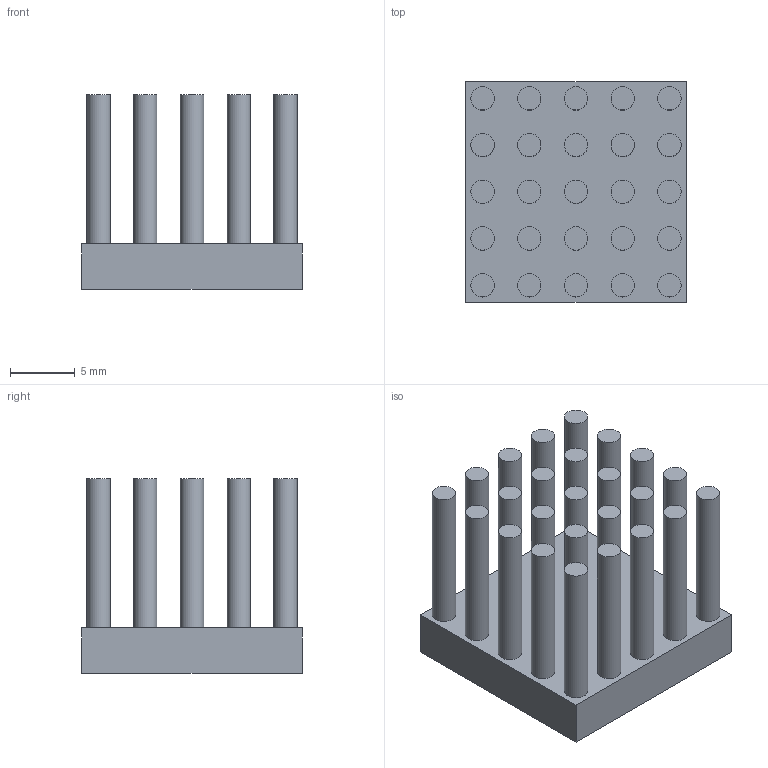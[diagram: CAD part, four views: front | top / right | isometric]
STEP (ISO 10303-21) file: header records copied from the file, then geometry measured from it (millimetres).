
FILE_DESCRIPTION(/* description */ (''),/* implementation_level */ '2;1');
FILE_NAME(/* name */ 'PB1717-25.stp',/* time_stamp */ '2013-08-21T08:56:11+08:00',/* author */ (''),/* organization */ (''),/* preprocessor_version */ 'ST-DEVELOPER v14',/* originating_system */ 'SIEMENS PLM Software NX 8.0',/* authorisation */ '');
FILE_SCHEMA (('CONFIG_CONTROL_DESIGN'));
Length unit declared in the file: millimetre
Products named in the file (1): PB1717-25
Bounding box: 17 x 17 x 15 mm (x, y, z)
Volume: 1743.1 mm3; surface area: 2441.8 mm2
Topology: 1 solids, 1 shells, 56 faces, 87 edges, 58 vertices
Faces by surface type: plane 31, cylinder 25
Full cylindrical faces by diameter (mm): 1.8 x25
Entity records: 1240 total; most frequent: DIRECTION 226, CARTESIAN_POINT 177, ORIENTED_EDGE 124, AXIS2_PLACEMENT_3D 107, EDGE_LOOP 106, FACE_BOUND 76, EDGE_CURVE 62, VERTEX_POINT 58
